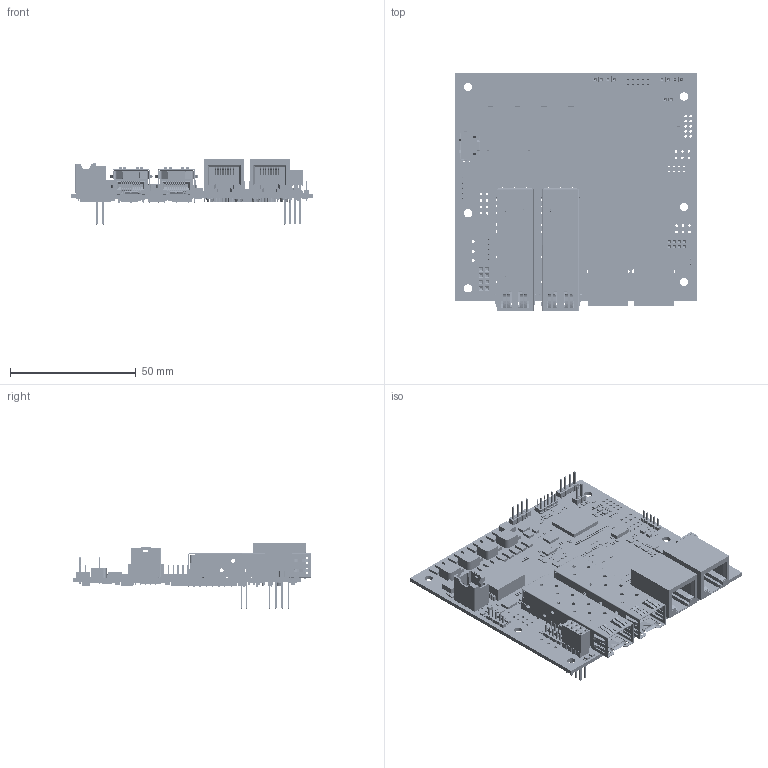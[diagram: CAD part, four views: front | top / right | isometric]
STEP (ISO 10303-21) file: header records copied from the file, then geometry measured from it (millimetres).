
FILE_DESCRIPTION(('Open CASCADE Model'),'2;1');
FILE_NAME('Open CASCADE Shape Model','2013-04-30T08:53:19',('Author'),( 'Open CASCADE'),'Open CASCADE STEP processor 6.2','Open CASCADE 6.2' ,'Unknown');
FILE_SCHEMA(('AUTOMOTIVE_DESIGN { 1 0 10303 214 1 1 1 1 }'));
Length unit declared in the file: millimetre
Products named in the file (673): PCB; Board; C195; 541990528; Extruded; C152; 541988864; C184; C167; C144; C179; R115; U28; 541990656; U37; U25; U31; U29; U34; U41; U40; R139; R148; R143; R158; R173; R166; U36; 541986816; C156; C219; 541990784; C138; C207; 541987200; C131; C146; R193; R224; R225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
Assembly tree (1273 placements, depth 4):
  PCB
    Board
    C195
      541990528
        Extruded
    C152
      541988864
        Extruded
    C184
      541988864
        Extruded
    C167
      541990528
        Extruded
    C144
      541990528
        Extruded
    C179
      541990528
        Extruded
    R115
      541990528
        Extruded
    U28
      541990656
        Extruded
    U37
      541990656
        Extruded
    U25
      541990656
        Extruded
    U31
      541990656
        Extruded
    U29
      541990656
        Extruded
    U34
      541990656
        Extruded
    U41
      541990656
        Extruded
    U40
      541990656
        Extruded
    R139
      541990528
        Extruded
    R148
      541990528
        Extruded
    R143
      541990528
        Extruded
    R158
      541990528
        Extruded
    R173
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Bounding box: 95.89 x 94.42 x 25.95 mm (x, y, z)
Volume: 28170 mm3; surface area: 47758 mm2
Topology: 673 solids, 675 shells, 12375 faces, 31297 edges, 20298 vertices
Faces by surface type: plane 9939, cylinder 2308, cone 64, torus 58, bspline 6
Full cylindrical faces by diameter (mm): 0.8 x16, 0.81 x27, 0.85 x2, 0.89 x20, 0.95 x18, 1 x82, 1.2 x3, 1.3 x1, 1.55 x4, 1.6 x4, 3.25 x4, 3.3 x6
Entity records: 304971 total; most frequent: CARTESIAN_POINT 69941, DIRECTION 41224, LINE 27218, VECTOR 27218, ORIENTED_EDGE 21926, PCURVE 21922, DEFINITIONAL_REPRESENTATION 21922, EDGE_CURVE 10961
